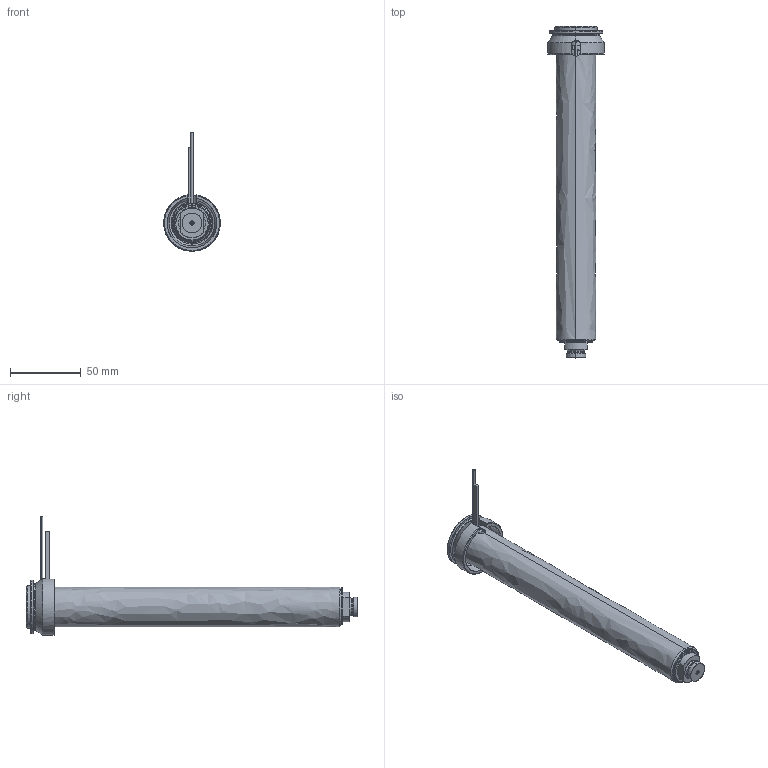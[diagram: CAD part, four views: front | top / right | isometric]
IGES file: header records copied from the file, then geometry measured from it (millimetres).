
Start section: SolidWorks IGES file using analytic representation for surfaces
Global section: file name: C:\Documents and Settings\ws-20\Desktop\TEM\UGEP4105-M-A-0 [Øf-1.31 P-0 ØC-09].IGS; native system: SolidWorks 2012; preprocessor: SolidWorks 2012; author: ws-20; date: 120426.085300; units: millimetre
Bounding box: 40 x 234.25 x 83.65 mm (x, y, z)
Surface area: 67884.8 mm2 (no closed solid volume)
Topology: 0 solids, 0 shells, 108 faces, 1774 edges, 1774 vertices
Faces by surface type: revolution 62, bspline 46
